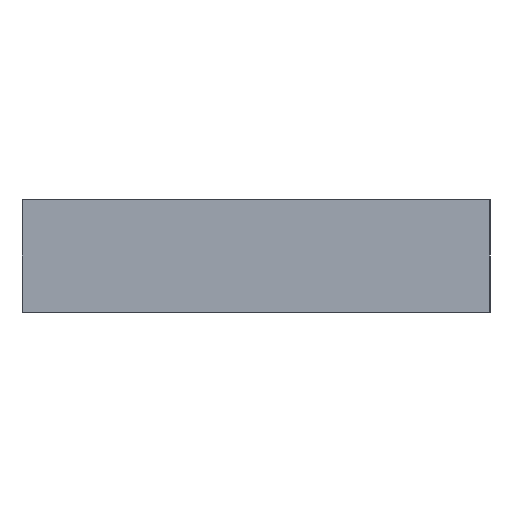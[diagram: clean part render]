
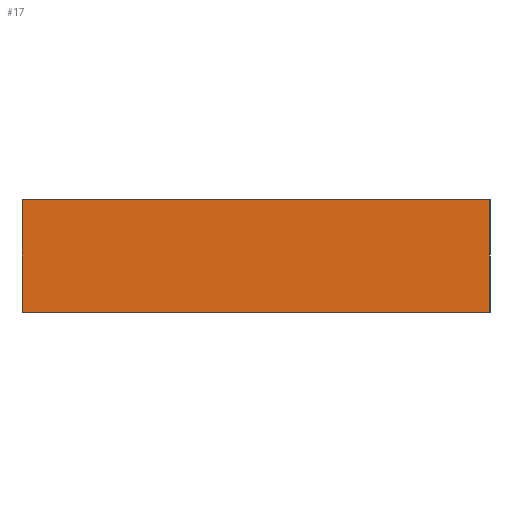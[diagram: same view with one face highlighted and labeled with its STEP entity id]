
A CAD part, left-side view. The second image highlights one B-rep face of the part: STEP entity #17.
In plain terms, the highlighted planar face has unit normal (-1, 0, 0).
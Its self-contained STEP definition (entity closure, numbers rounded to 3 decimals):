
#17 = ADVANCED_FACE('',(#18),#32,.F.);
#18 = FACE_BOUND('',#19,.F.);
#19 = EDGE_LOOP('',(#20,#55,#83,#111));
#20 = ORIENTED_EDGE('',*,*,#21,.F.);
#21 = EDGE_CURVE('',#22,#24,#26,.T.);
#22 = VERTEX_POINT('',#23);
#23 = CARTESIAN_POINT('',(-52.5,-24.95,-6.));
#24 = VERTEX_POINT('',#25);
#25 = CARTESIAN_POINT('',(-52.5,-24.95,6.));
#26 = SURFACE_CURVE('',#27,(#31,#43),.PCURVE_S1.);
#27 = LINE('',#28,#29);
#28 = CARTESIAN_POINT('',(-52.5,-24.95,-6.));
#29 = VECTOR('',#30,1.);
#30 = DIRECTION('',(0.,0.,1.));
#31 = PCURVE('',#32,#37);
#32 = PLANE('',#33);
#33 = AXIS2_PLACEMENT_3D('',#34,#35,#36);
#34 = CARTESIAN_POINT('',(-52.5,-24.95,-6.));
#35 = DIRECTION('',(1.,0.,0.));
#36 = DIRECTION('',(0.,0.,1.));
#37 = DEFINITIONAL_REPRESENTATION('',(#38),#42);
#38 = LINE('',#39,#40);
#39 = CARTESIAN_POINT('',(0.,0.));
#40 = VECTOR('',#41,1.);
#41 = DIRECTION('',(1.,0.));
#42 = ( GEOMETRIC_REPRESENTATION_CONTEXT(2) 
PARAMETRIC_REPRESENTATION_CONTEXT() REPRESENTATION_CONTEXT('2D SPACE',''
  ) );
#43 = PCURVE('',#44,#49);
#44 = PLANE('',#45);
#45 = AXIS2_PLACEMENT_3D('',#46,#47,#48);
#46 = CARTESIAN_POINT('',(-52.5,-24.95,-6.));
#47 = DIRECTION('',(0.,1.,0.));
#48 = DIRECTION('',(0.,0.,1.));
#49 = DEFINITIONAL_REPRESENTATION('',(#50),#54);
#50 = LINE('',#51,#52);
#51 = CARTESIAN_POINT('',(0.,0.));
#52 = VECTOR('',#53,1.);
#53 = DIRECTION('',(1.,0.));
#54 = ( GEOMETRIC_REPRESENTATION_CONTEXT(2) 
PARAMETRIC_REPRESENTATION_CONTEXT() REPRESENTATION_CONTEXT('2D SPACE',''
  ) );
#55 = ORIENTED_EDGE('',*,*,#56,.T.);
#56 = EDGE_CURVE('',#22,#57,#59,.T.);
#57 = VERTEX_POINT('',#58);
#58 = CARTESIAN_POINT('',(-52.5,24.95,-6.));
#59 = SURFACE_CURVE('',#60,(#64,#71),.PCURVE_S1.);
#60 = LINE('',#61,#62);
#61 = CARTESIAN_POINT('',(-52.5,-24.95,-6.));
#62 = VECTOR('',#63,1.);
#63 = DIRECTION('',(0.,1.,0.));
#64 = PCURVE('',#32,#65);
#65 = DEFINITIONAL_REPRESENTATION('',(#66),#70);
#66 = LINE('',#67,#68);
#67 = CARTESIAN_POINT('',(0.,0.));
#68 = VECTOR('',#69,1.);
#69 = DIRECTION('',(0.,-1.));
#70 = ( GEOMETRIC_REPRESENTATION_CONTEXT(2) 
PARAMETRIC_REPRESENTATION_CONTEXT() REPRESENTATION_CONTEXT('2D SPACE',''
  ) );
#71 = PCURVE('',#72,#77);
#72 = PLANE('',#73);
#73 = AXIS2_PLACEMENT_3D('',#74,#75,#76);
#74 = CARTESIAN_POINT('',(-52.5,-24.95,-6.));
#75 = DIRECTION('',(0.,0.,1.));
#76 = DIRECTION('',(1.,0.,0.));
#77 = DEFINITIONAL_REPRESENTATION('',(#78),#82);
#78 = LINE('',#79,#80);
#79 = CARTESIAN_POINT('',(0.,0.));
#80 = VECTOR('',#81,1.);
#81 = DIRECTION('',(0.,1.));
#82 = ( GEOMETRIC_REPRESENTATION_CONTEXT(2) 
PARAMETRIC_REPRESENTATION_CONTEXT() REPRESENTATION_CONTEXT('2D SPACE',''
  ) );
#83 = ORIENTED_EDGE('',*,*,#84,.T.);
#84 = EDGE_CURVE('',#57,#85,#87,.T.);
#85 = VERTEX_POINT('',#86);
#86 = CARTESIAN_POINT('',(-52.5,24.95,6.));
#87 = SURFACE_CURVE('',#88,(#92,#99),.PCURVE_S1.);
#88 = LINE('',#89,#90);
#89 = CARTESIAN_POINT('',(-52.5,24.95,-6.));
#90 = VECTOR('',#91,1.);
#91 = DIRECTION('',(0.,0.,1.));
#92 = PCURVE('',#32,#93);
#93 = DEFINITIONAL_REPRESENTATION('',(#94),#98);
#94 = LINE('',#95,#96);
#95 = CARTESIAN_POINT('',(0.,-49.9));
#96 = VECTOR('',#97,1.);
#97 = DIRECTION('',(1.,0.));
#98 = ( GEOMETRIC_REPRESENTATION_CONTEXT(2) 
PARAMETRIC_REPRESENTATION_CONTEXT() REPRESENTATION_CONTEXT('2D SPACE',''
  ) );
#99 = PCURVE('',#100,#105);
#100 = PLANE('',#101);
#101 = AXIS2_PLACEMENT_3D('',#102,#103,#104);
#102 = CARTESIAN_POINT('',(-52.5,24.95,-6.));
#103 = DIRECTION('',(0.,1.,0.));
#104 = DIRECTION('',(0.,0.,1.));
#105 = DEFINITIONAL_REPRESENTATION('',(#106),#110);
#106 = LINE('',#107,#108);
#107 = CARTESIAN_POINT('',(0.,0.));
#108 = VECTOR('',#109,1.);
#109 = DIRECTION('',(1.,0.));
#110 = ( GEOMETRIC_REPRESENTATION_CONTEXT(2) 
PARAMETRIC_REPRESENTATION_CONTEXT() REPRESENTATION_CONTEXT('2D SPACE',''
  ) );
#111 = ORIENTED_EDGE('',*,*,#112,.F.);
#112 = EDGE_CURVE('',#24,#85,#113,.T.);
#113 = SURFACE_CURVE('',#114,(#118,#125),.PCURVE_S1.);
#114 = LINE('',#115,#116);
#115 = CARTESIAN_POINT('',(-52.5,-24.95,6.));
#116 = VECTOR('',#117,1.);
#117 = DIRECTION('',(0.,1.,0.));
#118 = PCURVE('',#32,#119);
#119 = DEFINITIONAL_REPRESENTATION('',(#120),#124);
#120 = LINE('',#121,#122);
#121 = CARTESIAN_POINT('',(12.,0.));
#122 = VECTOR('',#123,1.);
#123 = DIRECTION('',(0.,-1.));
#124 = ( GEOMETRIC_REPRESENTATION_CONTEXT(2) 
PARAMETRIC_REPRESENTATION_CONTEXT() REPRESENTATION_CONTEXT('2D SPACE',''
  ) );
#125 = PCURVE('',#126,#131);
#126 = PLANE('',#127);
#127 = AXIS2_PLACEMENT_3D('',#128,#129,#130);
#128 = CARTESIAN_POINT('',(-52.5,-24.95,6.));
#129 = DIRECTION('',(0.,0.,1.));
#130 = DIRECTION('',(1.,0.,0.));
#131 = DEFINITIONAL_REPRESENTATION('',(#132),#136);
#132 = LINE('',#133,#134);
#133 = CARTESIAN_POINT('',(0.,0.));
#134 = VECTOR('',#135,1.);
#135 = DIRECTION('',(0.,1.));
#136 = ( GEOMETRIC_REPRESENTATION_CONTEXT(2) 
PARAMETRIC_REPRESENTATION_CONTEXT() REPRESENTATION_CONTEXT('2D SPACE',''
  ) );
